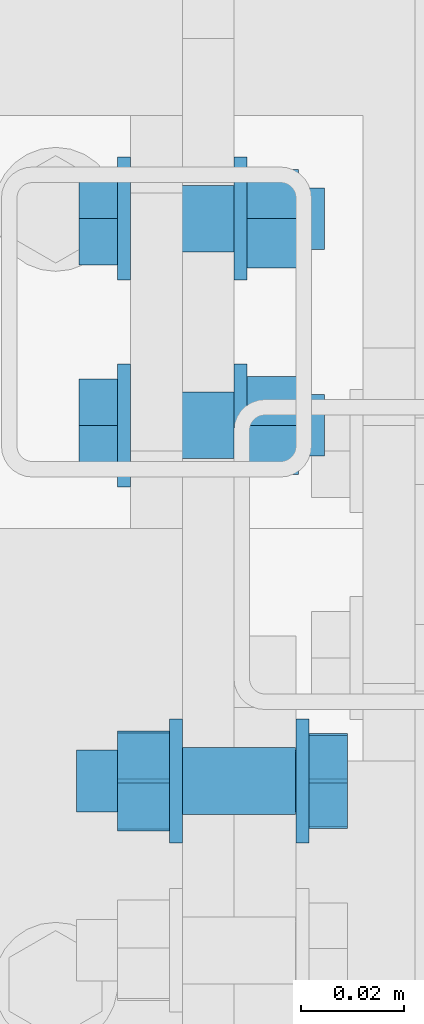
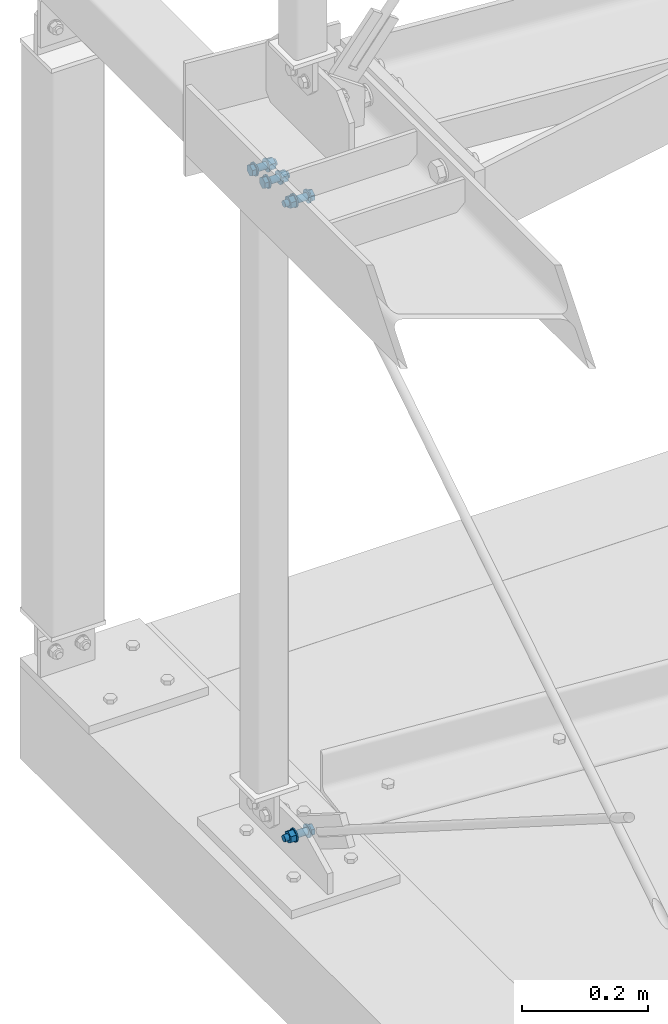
# One storey, part 247 of 271: 3 mechanical fasteners, 2 elements without a shape of their own.
"""IFC2X3 building model written with IfcOpenShell, lengths in millimetres."""

from ifc_helpers import new_model, si_unit, frame, origin_with_axes, origin_2d_with_axis, place, context, subcontext, project, spatial, polyline, circle, outline, extrude, source, transform, mapped, material, type_object, element, aggregate, save


model = new_model("IFC2X3")

# Units and contexts
model_context = context("Model", 3, precision=1e-05, world=origin_with_axes())
body_context = subcontext(model_context, "Body", "Model", "MODEL_VIEW")
ifc_project = project(units=[si_unit("LENGTHUNIT", "METRE", prefix="MILLI"), si_unit("AREAUNIT", "SQUARE_METRE"), si_unit("VOLUMEUNIT", "CUBIC_METRE"), si_unit("MASSUNIT", "GRAM", prefix="KILO"), si_unit("TIMEUNIT", "SECOND"), si_unit("PLANEANGLEUNIT", "RADIAN"), si_unit("SOLIDANGLEUNIT", "STERADIAN"), si_unit("THERMODYNAMICTEMPERATUREUNIT", "DEGREE_CELSIUS"), si_unit("LUMINOUSINTENSITYUNIT", "LUMEN")], contexts=[model_context])

# Site, building, storey
site_placement = place(None, origin_with_axes())
site = spatial("IfcSite", under=ifc_project, at=site_placement, Name="Undefined", CompositionType="ELEMENT")
building_placement = place(site_placement, origin_with_axes())
building = spatial("IfcBuilding", under=site, at=building_placement, Name="Undefined", CompositionType="ELEMENT")
storey_placement = place(building_placement, origin_with_axes())
storey = spatial("IfcBuildingStorey", under=building, at=storey_placement, Name="Undefined", CompositionType="ELEMENT", Elevation=0.0)

# Assembly, mechanical fastener
assembly_1_placement = place(storey_placement, origin_with_axes())
assembly_1 = element("IfcElementAssembly", 1, at=assembly_1_placement, inside=storey, AssemblyPlace="NOTDEFINED", PredefinedType="RIGID_FRAME")
ifc_material = material(Name="Undefined")
mechanical_fastener_type = type_object("IfcMechanicalFastenerType", Name="Bolt assembly")
shared_shape_1 = source(origin_with_axes(), body_context, "Body", "SweptSolid", [
    extrude(circle(Radius=6.5, at=origin_2d_with_axis()), frame((0.0, -5.1, 0.0), z_axis=(0.0, 1.0, 0.0), x_axis=(1.0, 0.0, 0.0)), (0.0, 0.0, 1.0), 10.1),
    extrude(circle(Radius=6.5, at=origin_2d_with_axis()), frame((0.0, -16.9, 0.0), z_axis=(0.0, 1.0, 0.0), x_axis=(1.0, 0.0, 0.0)), (0.0, 0.0, 1.0), 12.0),
    extrude(outline(polyline([(10.39230484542, 0.0), (5.19615242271, 9.00000000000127), (-5.19615242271, 9.00000000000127), (-10.39230484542, 0.0), (-5.19615242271, -9.00000000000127), (5.19615242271, -9.00000000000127), (10.39230484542, 0.0)])), frame((0.0, -27.0, 0.0), z_axis=(0.0, 1.0, 0.0), x_axis=(1.0, 0.0, 0.0)), (0.0, 0.0, 1.0), 7.5),
    extrude(circle(Radius=6.0, at=origin_2d_with_axis()), frame((0.0, -19.5, 0.0), z_axis=(0.0, 1.0, 0.0), x_axis=(1.0, 0.0, 0.0)), (0.0, 0.0, 1.0), 45.0),
    extrude(circle(Radius=12.0, at=origin_2d_with_axis()), frame((0.0, -19.5, 0.0), z_axis=(0.0, 1.0, 0.0), x_axis=(1.0, 0.0, 0.0)), (0.0, 0.0, 1.0), 2.5),
    extrude(circle(Radius=12.0, at=origin_2d_with_axis()), frame((0.0, 5.00000000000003, 0.0), z_axis=(0.0, 1.0, 0.0), x_axis=(1.0, 0.0, 0.0)), (0.0, 0.0, 1.0), 2.5),
    extrude(outline(polyline([(10.96965511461, 0.0), (5.484827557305, 9.50000000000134), (-5.484827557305, 9.50000000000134), (-10.96965511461, 0.0), (-5.484827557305, -9.50000000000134), (5.484827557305, -9.50000000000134), (10.96965511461, 0.0)])), frame((0.0, 7.50000000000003, 0.0), z_axis=(0.0, 1.0, 0.0), x_axis=(1.0, 0.0, 0.0)), (0.0, 0.0, 1.0), 10.0),
])
mechanical_fastener_1_placement = place(assembly_1_placement, frame((87.9999999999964, 4248.34795748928, 53.3416626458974), z_axis=(0.0, -0.533166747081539, -0.846010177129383), x_axis=(0.0, -0.846010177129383, 0.533166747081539)))
mechanical_fastener_1 = element("IfcMechanicalFastener", 2, at=mechanical_fastener_1_placement, type_object=mechanical_fastener_type, material=ifc_material, Name="Bolt assembly", NominalDiameter=12.0, NominalLength=45.0, context=body_context, shape_type="MappedRepresentation", body=[
    mapped(shared_shape_1, transform((0.0, 0.0, 0.0))),
])
aggregate(assembly_1, [mechanical_fastener_1])

# Assembly, mechanical fasteners
assembly_2_placement = place(storey_placement, origin_with_axes())
assembly_2 = element("IfcElementAssembly", 3, at=assembly_2_placement, inside=storey, AssemblyPlace="NOTDEFINED", PredefinedType="RIGID_FRAME")
shared_shape_2 = source(origin_with_axes(), body_context, "Body", "SweptSolid", [
    extrude(circle(Radius=6.5, at=origin_2d_with_axis()), frame((0.0, -16.9, 0.0), z_axis=(0.0, 1.0, 0.0), x_axis=(1.0, 0.0, 0.0)), (0.0, 0.0, 1.0), 12.0),
    extrude(circle(Radius=6.5, at=origin_2d_with_axis()), frame((0.0, -5.1, 0.0), z_axis=(0.0, 1.0, 0.0), x_axis=(1.0, 0.0, 0.0)), (0.0, 0.0, 1.0), 10.1),
    extrude(outline(polyline([(10.39230484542, 0.0), (5.19615242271, 9.00000000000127), (-5.19615242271, 9.00000000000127), (-10.39230484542, 0.0), (-5.19615242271, -9.00000000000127), (5.19615242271, -9.00000000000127), (10.39230484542, 0.0)])), frame((0.0, -27.0, 0.0), z_axis=(0.0, 1.0, 0.0), x_axis=(1.0, 0.0, 0.0)), (0.0, 0.0, 1.0), 7.5),
    extrude(circle(Radius=6.0, at=origin_2d_with_axis()), frame((0.0, -19.5, 0.0), z_axis=(0.0, 1.0, 0.0), x_axis=(1.0, 0.0, 0.0)), (0.0, 0.0, 1.0), 45.0),
    extrude(circle(Radius=12.0, at=origin_2d_with_axis()), frame((0.0, -19.5, 0.0), z_axis=(0.0, 1.0, 0.0), x_axis=(1.0, 0.0, 0.0)), (0.0, 0.0, 1.0), 2.5),
    extrude(circle(Radius=12.0, at=origin_2d_with_axis()), frame((0.0, 5.00000000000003, 0.0), z_axis=(0.0, 1.0, 0.0), x_axis=(1.0, 0.0, 0.0)), (0.0, 0.0, 1.0), 2.5),
    extrude(outline(polyline([(10.96965511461, 0.0), (5.484827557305, 9.50000000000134), (-5.484827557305, 9.50000000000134), (-10.96965511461, 0.0), (-5.484827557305, -9.50000000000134), (5.484827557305, -9.50000000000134), (10.96965511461, 0.0)])), frame((0.0, 7.50000000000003, 0.0), z_axis=(0.0, 1.0, 0.0), x_axis=(1.0, 0.0, 0.0)), (0.0, 0.0, 1.0), 10.0),
])
mechanical_fastener_2_placement = place(assembly_2_placement, frame((87.9999999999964, 4248.34795748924, 1287.35833716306), z_axis=(0.0, 0.533166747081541, -0.846010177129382), x_axis=(0.0, -0.846010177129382, -0.533166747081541)))
mechanical_fastener_2 = element("IfcMechanicalFastener", 4, at=mechanical_fastener_2_placement, type_object=mechanical_fastener_type, material=ifc_material, Name="Bolt assembly", NominalDiameter=12.0, NominalLength=45.0, context=body_context, shape_type="MappedRepresentation", body=[
    mapped(shared_shape_2, transform((0.0, 0.0, 0.0))),
])
shared_shape_3 = source(origin_with_axes(), body_context, "Body", "SweptSolid", [
    extrude(circle(Radius=6.5, at=origin_2d_with_axis()), frame((0.0, -14.9000000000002, 0.0), z_axis=(0.0, 1.0, 0.0), x_axis=(1.0, 0.0, 0.0)), (0.0, 0.0, 1.0), 10.0),
    extrude(circle(Radius=6.5, at=origin_2d_with_axis()), frame((0.0, -5.1, 0.0), z_axis=(0.0, 1.0, 0.0), x_axis=(1.0, 0.0, 0.0)), (0.0, 0.0, 1.0), 10.1),
    extrude(outline(polyline([(10.39230484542, 0.0), (5.19615242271, 9.00000000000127), (-5.19615242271, 9.00000000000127), (-10.39230484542, 0.0), (-5.19615242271, -9.00000000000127), (5.19615242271, -9.00000000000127), (10.39230484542, 0.0)])), frame((0.0, -25.0000000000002, 0.0), z_axis=(0.0, 1.0, 0.0), x_axis=(1.0, 0.0, 0.0)), (0.0, 0.0, 1.0), 7.5),
    extrude(circle(Radius=6.0, at=origin_2d_with_axis()), frame((0.0, -17.5000000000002, 0.0), z_axis=(0.0, 1.0, 0.0), x_axis=(1.0, 0.0, 0.0)), (0.0, 0.0, 1.0), 40.0),
    extrude(circle(Radius=12.0, at=origin_2d_with_axis()), frame((0.0, -17.5000000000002, 0.0), z_axis=(0.0, 1.0, 0.0), x_axis=(1.0, 0.0, 0.0)), (0.0, 0.0, 1.0), 2.5),
    extrude(circle(Radius=12.0, at=origin_2d_with_axis()), frame((0.0, 5.00000000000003, 0.0), z_axis=(0.0, 1.0, 0.0), x_axis=(1.0, 0.0, 0.0)), (0.0, 0.0, 1.0), 2.5),
    extrude(outline(polyline([(10.96965511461, 0.0), (5.484827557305, 9.50000000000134), (-5.484827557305, 9.50000000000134), (-10.96965511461, 0.0), (-5.484827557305, -9.50000000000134), (5.484827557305, -9.50000000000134), (10.96965511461, 0.0)])), frame((0.0, 7.50000000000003, 0.0), z_axis=(0.0, 1.0, 0.0), x_axis=(1.0, 0.0, 0.0)), (0.0, 0.0, 1.0), 10.0),
])
mechanical_fastener_3_placement = place(assembly_2_placement, frame((87.9999996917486, 4337.19355050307, 1286.04999995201), z_axis=(0.0, -1.0, 0.0), x_axis=(0.0, 0.0, -1.0)))
mechanical_fastener_3 = element("IfcMechanicalFastener", 5, at=mechanical_fastener_3_placement, type_object=mechanical_fastener_type, material=ifc_material, Name="Bolt assembly", NominalDiameter=12.0, NominalLength=40.0, context=body_context, shape_type="MappedRepresentation", body=[
    mapped(shared_shape_3, transform((0.0, 0.0, -20.0))),
    mapped(shared_shape_3, transform((0.0, 0.0, 20.0))),
])
aggregate(assembly_2, [mechanical_fastener_2, mechanical_fastener_3])

save(model, "model.ifc")
